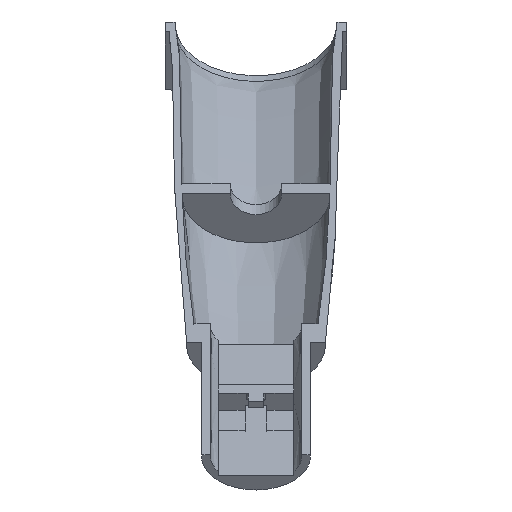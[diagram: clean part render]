
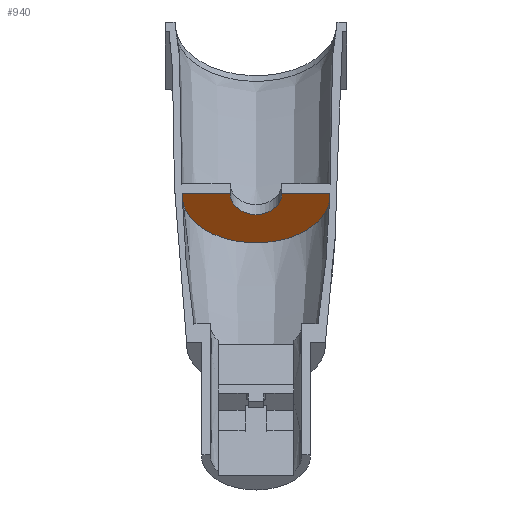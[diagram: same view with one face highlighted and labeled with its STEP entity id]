
A CAD part, isometric view. The second image highlights one B-rep face of the part: STEP entity #940.
In plain terms, the highlighted planar face has unit normal (-0.707, -0.707, 0).
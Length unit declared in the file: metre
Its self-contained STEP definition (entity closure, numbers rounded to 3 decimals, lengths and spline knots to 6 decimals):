
#30=CIRCLE('',#1004,0.006);
#40=B_SPLINE_CURVE_WITH_KNOTS('',3,(#1325,#1326,#1327,#1328,#1329,#1330,
#1331,#1332,#1333,#1334,#1335,#1336,#1337,#1338,#1339,#1340,#1341,#1342),
 .UNSPECIFIED.,.F.,.F.,(4,1,1,1,1,1,1,1,1,1,1,1,1,1,1,4),(0.,
0.003083,0.006167,0.012334,0.015417,
0.0185,0.021584,0.024667,0.027751,
0.030834,0.033918,0.037001,0.040084,
0.043168,0.046251,0.049335),.UNSPECIFIED.);
#85=ORIENTED_EDGE('',*,*,#353,.F.);
#86=ORIENTED_EDGE('',*,*,#369,.T.);
#87=ORIENTED_EDGE('',*,*,#370,.F.);
#88=ORIENTED_EDGE('',*,*,#371,.F.);
#353=EDGE_CURVE('',#494,#496,#589,.T.);
#369=EDGE_CURVE('',#494,#511,#30,.T.);
#370=EDGE_CURVE('',#512,#511,#601,.T.);
#371=EDGE_CURVE('',#496,#512,#40,.T.);
#494=VERTEX_POINT('',#1253);
#496=VERTEX_POINT('',#1256);
#511=VERTEX_POINT('',#1322);
#512=VERTEX_POINT('',#1324);
#589=LINE('',#1255,#688);
#601=LINE('',#1323,#700);
#688=VECTOR('',#1056,1.);
#700=VECTOR('',#1072,1.);
#787=EDGE_LOOP('',(#85,#86,#87,#88));
#845=FACE_BOUND('',#787,.T.);
#903=PLANE('',#1003);
#940=ADVANCED_FACE('',(#845),#903,.F.);
#1003=AXIS2_PLACEMENT_3D('',#1320,#1068,#1069);
#1004=AXIS2_PLACEMENT_3D('',#1321,#1070,#1071);
#1056=DIRECTION('',(0.707,-0.707,0.));
#1068=DIRECTION('',(0.707,0.707,0.));
#1069=DIRECTION('',(-0.707,0.707,0.));
#1070=DIRECTION('',(0.707,0.707,0.));
#1071=DIRECTION('',(-0.707,0.707,0.));
#1072=DIRECTION('',(0.707,-0.707,0.));
#1253=CARTESIAN_POINT('',(-0.082733,-0.041359,0.));
#1255=CARTESIAN_POINT('',(-0.086976,-0.037116,0.));
#1256=CARTESIAN_POINT('',(-0.074834,-0.049258,0.));
#1320=CARTESIAN_POINT('',(-0.086976,-0.037116,0.006245));
#1321=CARTESIAN_POINT('',(-0.086976,-0.037116,0.));
#1322=CARTESIAN_POINT('',(-0.091219,-0.032874,0.));
#1323=CARTESIAN_POINT('',(-0.086976,-0.037116,0.));
#1324=CARTESIAN_POINT('',(-0.099118,-0.024975,0.));
#1325=CARTESIAN_POINT('',(-0.074834,-0.049258,0.));
#1326=CARTESIAN_POINT('',(-0.074789,-0.049303,-0.001042));
#1327=CARTESIAN_POINT('',(-0.074922,-0.049171,-0.003101));
#1328=CARTESIAN_POINT('',(-0.076016,-0.048077,-0.006992));
#1329=CARTESIAN_POINT('',(-0.0781,-0.045993,-0.010066));
#1330=CARTESIAN_POINT('',(-0.080602,-0.04349,-0.012134));
#1331=CARTESIAN_POINT('',(-0.082667,-0.041426,-0.013246));
#1332=CARTESIAN_POINT('',(-0.084795,-0.039297,-0.013896));
#1333=CARTESIAN_POINT('',(-0.086997,-0.037095,-0.014112));
#1334=CARTESIAN_POINT('',(-0.089157,-0.034935,-0.013896));
#1335=CARTESIAN_POINT('',(-0.091316,-0.032776,-0.013233));
#1336=CARTESIAN_POINT('',(-0.093338,-0.030754,-0.01214));
#1337=CARTESIAN_POINT('',(-0.095228,-0.028865,-0.010582));
#1338=CARTESIAN_POINT('',(-0.09689,-0.027202,-0.008539));
#1339=CARTESIAN_POINT('',(-0.098207,-0.025885,-0.006025));
#1340=CARTESIAN_POINT('',(-0.099029,-0.025063,-0.003108));
#1341=CARTESIAN_POINT('',(-0.099163,-0.02493,-0.001044));
#1342=CARTESIAN_POINT('',(-0.099118,-0.024975,0.));
